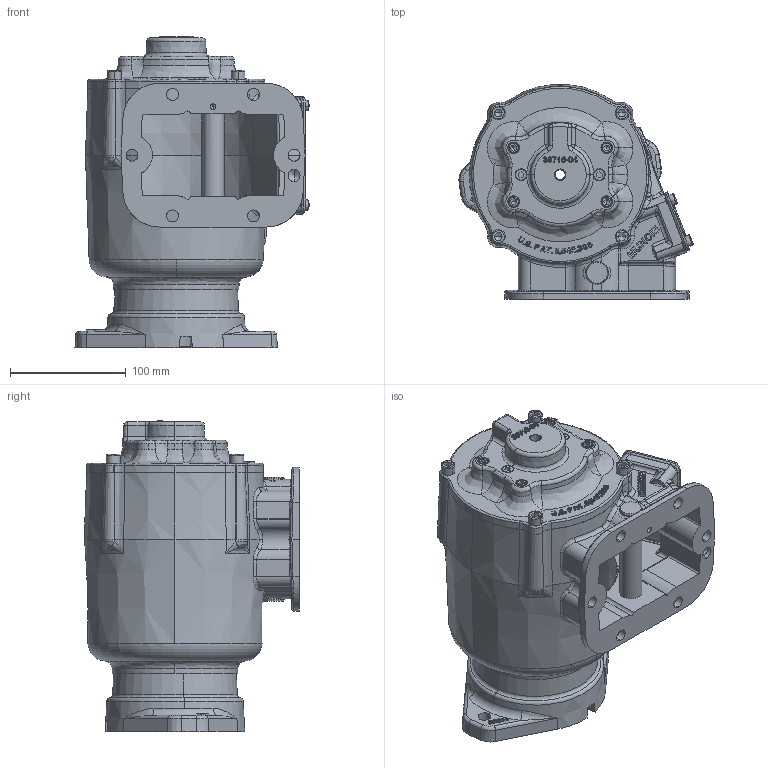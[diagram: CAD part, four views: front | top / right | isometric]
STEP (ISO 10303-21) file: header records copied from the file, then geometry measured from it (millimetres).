
FILE_DESCRIPTION (( 'STEP AP203' ), '1' );
FILE_NAME ('CS6S-XXXXX-E16X.STEP', '2023-06-06T13:58:42', ( '' ), ( '' ), 'SwSTEP 2.0', 'SolidWorks 2021', '' );
FILE_SCHEMA (( 'CONFIG_CONTROL_DESIGN' ));
Length unit declared in the file: millimetre
Products named in the file (21): 19T41118; 14ta4818_Config1; 12T35949; 19T36174; 12T34003; 12T36751; 14TA4819_Config1; 27T36173_Free Length; 10T21017; 14t38981; 19t39257; 19T36082; 16T41119; CS6S-XXXXX-E16X; 11T37795; 07T37071; 25T21684; 01T37073; 15T36717; 11T37790; 19T35237
Assembly tree (37 placements, depth 3):
  CS6S-XXXXX-E16X
    01T37073
    16T41119
    19T41118  x4
    15T36717
    12T34003
    19T35237  x4
    10T21017
    12T36751
    07T37071
    12T35949  x2
    27T36173_Free Length  x4
    19T36174  x4
    25T21684  x2
    19T36082
    19t39257  x4
    14ta4818_Config1
      11T37795
    14TA4819_Config1
      14t38981
      11T37790
Bounding box: 201.91 x 185.25 x 268.87 mm (x, y, z)
Volume: 1434739.6 mm3; surface area: 448203.3 mm2
Topology: 35 solids, 36 shells, 2488 faces, 6245 edges, 3834 vertices
Faces by surface type: bspline 826, plane 635, cylinder 509, cone 330, torus 156, sphere 32
Entity records: 134928 total; most frequent: CARTESIAN_POINT 86006, ORIENTED_EDGE 10866, DIRECTION 7422, EDGE_CURVE 5433, VERTEX_POINT 3390, AXIS2_PLACEMENT_3D 2719, EDGE_LOOP 2401, FACE_OUTER_BOUND 2168
